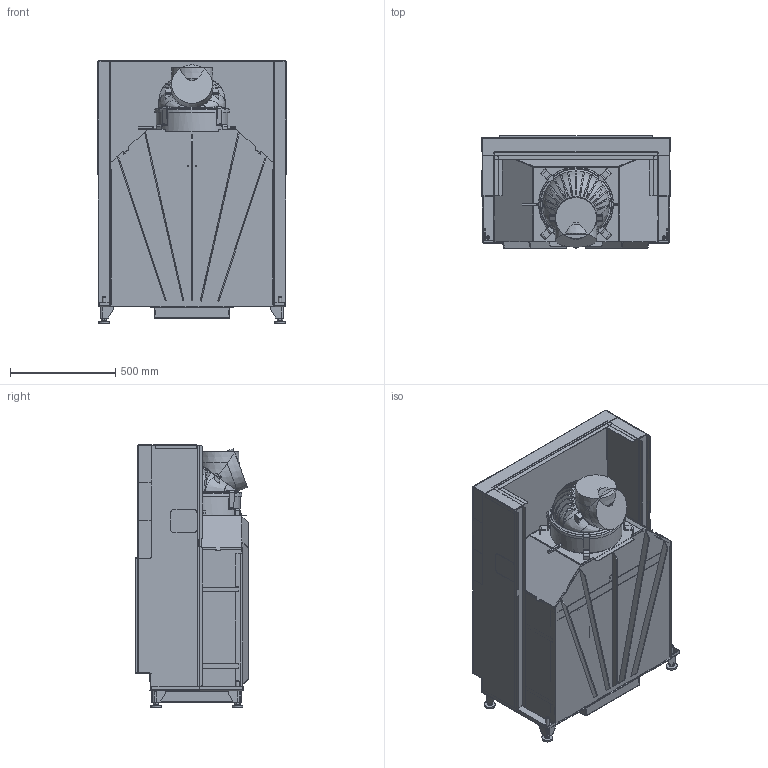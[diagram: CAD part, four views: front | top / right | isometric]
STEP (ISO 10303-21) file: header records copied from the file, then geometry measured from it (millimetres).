
FILE_DESCRIPTION(/* description */ ('','CAx-IF Rec.Pracs.---Representation and Presentation of Product Manufacturing Information (PMI)---3.8---2014-02-18'),/* implementation_level */ '2;1');
FILE_NAME(/* name */ 'C:\ADSK_DM_WS\CAD_3D\03 Geraete\Violino 55x73\Zeichnungen\Violino_55x73_ohne_Mantel_Gen1_2016-00413.stp',/* time_stamp */ '2016-03-08T13:56:50+01:00',/* author */ ('cpi'),/* organization */ (''),/* preprocessor_version */ 'ST-DEVELOPER v16.1',/* originating_system */ 'Autodesk Inventor 2016',/* authorisation */ '');
FILE_SCHEMA (('AP242_MANAGED_MODEL_BASED_3D_ENGINEERING_MIM_LF { 1 0 10303 442 1 1 4 }'));
Products named in the file (5): 2016-00410; 2016-00407; 2016-00412; 2016-00411; 2016-00413
Assembly tree (4 placements, depth 2):
  2016-00413
    2016-00410
    2016-00407
    2016-00411
    2016-00412
Bounding box: 896 x 534.5 x 1248 mm (x, y, z)
Volume: 76644631.5 mm3; surface area: 15681104.4 mm2
Topology: 14 solids, 17 shells, 3177 faces, 8660 edges, 5404 vertices
Faces by surface type: plane 1926, cylinder 1043, bspline 118, cone 86, torus 3, sphere 1
Full cylindrical faces by diameter (mm): 4.8 x1, 5.6 x1, 6 x2, 7 x2, 8 x2, 10 x7, 16 x12, 30 x4, 333 x1, 339 x1
Entity records: 104842 total; most frequent: CARTESIAN_POINT 22137, ORIENTED_EDGE 17238, DIRECTION 16341, EDGE_CURVE 8589, LINE 5809, VECTOR 5809, VERTEX_POINT 5390, AXIS2_PLACEMENT_3D 5266
